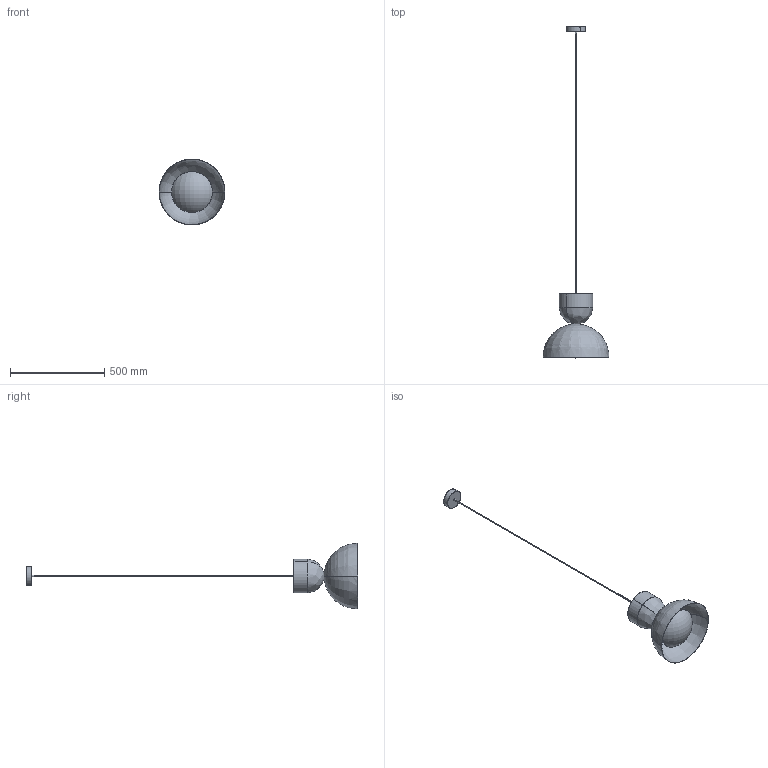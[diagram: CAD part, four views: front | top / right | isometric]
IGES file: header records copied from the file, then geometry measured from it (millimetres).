
Start section: SolidWorks IGES file using analytic representation for surfaces
Global section: file name: C:\Users\Maripaz\Desktop\C1081\c1081.IGS; native system: SolidWorks 2017; preprocessor: SolidWorks 2017; author: Maripaz; date: 190227.154101; units: millimetre
Bounding box: 350 x 1764.02 x 350 mm (x, y, z)
Surface area: 725987 mm2 (no closed solid volume)
Topology: 0 solids, 0 shells, 56 faces, 1128 edges, 1123 vertices
Faces by surface type: revolution 29, bspline 27
